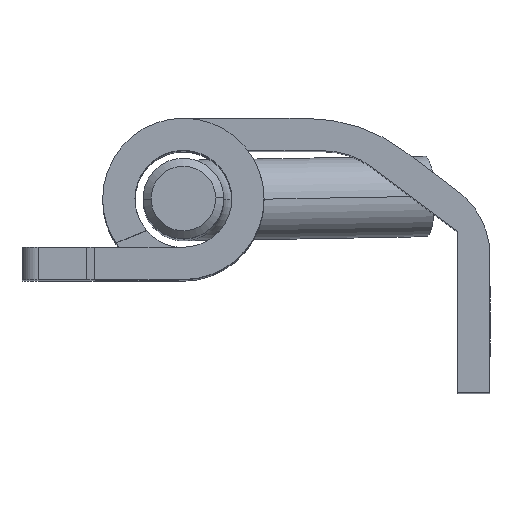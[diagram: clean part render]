
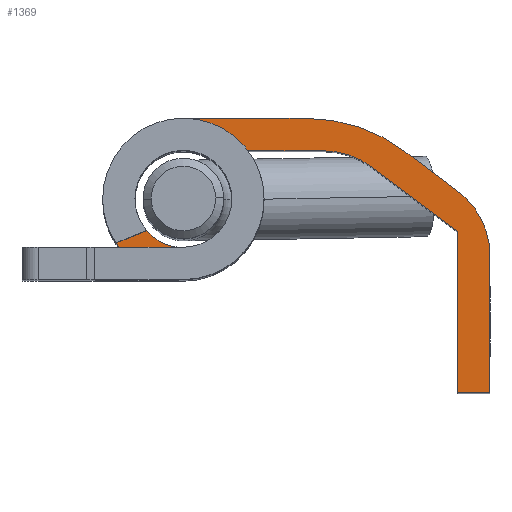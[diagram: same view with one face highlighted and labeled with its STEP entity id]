
A CAD part, top view. The second image highlights one B-rep face of the part: STEP entity #1369.
In plain terms, the highlighted planar face has unit normal (0, 0, 1) as drawn and (0, -1, 0) by its records, which use the part's own axes.
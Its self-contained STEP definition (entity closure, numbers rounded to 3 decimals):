
#9 = AXIS2_PLACEMENT_3D ( 'NONE', #5527, #2491, #3414 ) ;
#33 = CARTESIAN_POINT ( 'NONE',  ( -3.76, 0., -3.782 ) ) ;
#59 = LINE ( 'NONE', #2488, #2649 ) ;
#108 = VECTOR ( 'NONE', #3937, 1000. ) ;
#131 = CARTESIAN_POINT ( 'NONE',  ( -7.76, 0., -9.115 ) ) ;
#144 = ORIENTED_EDGE ( 'NONE', *, *, #5586, .F. ) ;
#244 = ORIENTED_EDGE ( 'NONE', *, *, #3194, .F. ) ;
#353 = AXIS2_PLACEMENT_3D ( 'NONE', #4005, #4478, #2029 ) ;
#403 = LINE ( 'NONE', #4023, #108 ) ;
#430 = CIRCLE ( 'NONE', #4335, 5. ) ;
#435 = ORIENTED_EDGE ( 'NONE', *, *, #6341, .F. ) ;
#487 = DIRECTION ( 'NONE',  ( 0., 1., 0. ) ) ;
#500 = CARTESIAN_POINT ( 'NONE',  ( -9.26, 0., -11.115 ) ) ;
#523 = VERTEX_POINT ( 'NONE', #5619 ) ;
#552 = CARTESIAN_POINT ( 'NONE',  ( -2.76, 0., -0.782 ) ) ;
#581 = CARTESIAN_POINT ( 'NONE',  ( -3.683, 0., 3.337 ) ) ;
#675 = EDGE_CURVE ( 'NONE', #5664, #3522, #4897, .T. ) ;
#716 = CARTESIAN_POINT ( 'NONE',  ( -2.76, 0., -2.448 ) ) ;
#870 = AXIS2_PLACEMENT_3D ( 'NONE', #5587, #6119, #4032 ) ;
#888 = CARTESIAN_POINT ( 'NONE',  ( -5.76, 0., 7.885 ) ) ;
#942 = CARTESIAN_POINT ( 'NONE',  ( -4.408, 0., 5.207 ) ) ;
#954 = CIRCLE ( 'NONE', #9, 3. ) ;
#970 = VECTOR ( 'NONE', #5009, 1000. ) ;
#975 = VERTEX_POINT ( 'NONE', #4190 ) ;
#1020 = CARTESIAN_POINT ( 'NONE',  ( -5.76, 0., 7.885 ) ) ;
#1140 = DIRECTION ( 'NONE',  ( 0., 0., 1. ) ) ;
#1174 = AXIS2_PLACEMENT_3D ( 'NONE', #2355, #3866, #5386 ) ;
#1323 = LINE ( 'NONE', #1957, #5406 ) ;
#1369 = ADVANCED_FACE ( 'NONE', ( #1916 ), #3930, .F. ) ;
#1413 = CARTESIAN_POINT ( 'NONE',  ( -0.76, 0., 0.218 ) ) ;
#1439 = ORIENTED_EDGE ( 'NONE', *, *, #6267, .F. ) ;
#1491 = VERTEX_POINT ( 'NONE', #6536 ) ;
#1527 = CARTESIAN_POINT ( 'NONE',  ( -17.76, 0., -11.115 ) ) ;
#1586 = EDGE_CURVE ( 'NONE', #5634, #5664, #3397, .T. ) ;
#1807 = AXIS2_PLACEMENT_3D ( 'NONE', #888, #2923, #6520 ) ;
#1887 = CARTESIAN_POINT ( 'NONE',  ( -5.76, 0., 12.885 ) ) ;
#1916 = FACE_OUTER_BOUND ( 'NONE', #2867, .T. ) ;
#1936 = DIRECTION ( 'NONE',  ( 0., 1., 0. ) ) ;
#1953 = DIRECTION ( 'NONE',  ( 0., 0., 1. ) ) ;
#1957 = CARTESIAN_POINT ( 'NONE',  ( -17.76, 0., -11.115 ) ) ;
#2022 = EDGE_CURVE ( 'NONE', #1491, #2154, #3405, .T. ) ;
#2029 = DIRECTION ( 'NONE',  ( 0., 0., 1. ) ) ;
#2113 = VECTOR ( 'NONE', #4470, 1000. ) ;
#2120 = VERTEX_POINT ( 'NONE', #1413 ) ;
#2126 = VECTOR ( 'NONE', #4907, 1000. ) ;
#2154 = VERTEX_POINT ( 'NONE', #942 ) ;
#2301 = CARTESIAN_POINT ( 'NONE',  ( -7.76, 0., -0.782 ) ) ;
#2344 = CARTESIAN_POINT ( 'NONE',  ( -17.76, 0., -9.115 ) ) ;
#2355 = CARTESIAN_POINT ( 'NONE',  ( -10.76, 0., 0.218 ) ) ;
#2402 = CARTESIAN_POINT ( 'NONE',  ( -5.76, 0., 7.885 ) ) ;
#2454 = CARTESIAN_POINT ( 'NONE',  ( -5.76, 0., 2.885 ) ) ;
#2482 = LINE ( 'NONE', #4492, #3513 ) ;
#2488 = CARTESIAN_POINT ( 'NONE',  ( -7.76, 0., -9.115 ) ) ;
#2491 = DIRECTION ( 'NONE',  ( 0., -1., 0. ) ) ;
#2536 = ORIENTED_EDGE ( 'NONE', *, *, #6151, .T. ) ;
#2552 = VERTEX_POINT ( 'NONE', #5687 ) ;
#2602 = VERTEX_POINT ( 'NONE', #552 ) ;
#2649 = VECTOR ( 'NONE', #4499, 1000. ) ;
#2683 = EDGE_CURVE ( 'NONE', #2154, #4989, #4465, .T. ) ;
#2746 = EDGE_CURVE ( 'NONE', #523, #2120, #5293, .T. ) ;
#2784 = AXIS2_PLACEMENT_3D ( 'NONE', #2301, #6175, #1140 ) ;
#2825 = CARTESIAN_POINT ( 'NONE',  ( -9.26, 0., -6.115 ) ) ;
#2828 = ORIENTED_EDGE ( 'NONE', *, *, #4706, .F. ) ;
#2857 = DIRECTION ( 'NONE',  ( 0., -1., 0. ) ) ;
#2867 = EDGE_LOOP ( 'NONE', ( #144, #2536, #244, #6367, #6472, #5439, #3459, #2828, #4903, #4853, #3979, #6059, #4205, #3871, #3890, #1439, #435 ) ) ;
#2885 = CIRCLE ( 'NONE', #5617, 5. ) ;
#2923 = DIRECTION ( 'NONE',  ( 0., 1., 0. ) ) ;
#3012 = EDGE_CURVE ( 'NONE', #2602, #2552, #4221, .T. ) ;
#3020 = CARTESIAN_POINT ( 'NONE',  ( -4.408, 0., 5.207 ) ) ;
#3194 = EDGE_CURVE ( 'NONE', #523, #6068, #3339, .T. ) ;
#3339 = LINE ( 'NONE', #5981, #2126 ) ;
#3387 = VERTEX_POINT ( 'NONE', #2344 ) ;
#3392 = EDGE_CURVE ( 'NONE', #3522, #2120, #2482, .T. ) ;
#3397 = CIRCLE ( 'NONE', #3705, 5. ) ;
#3405 = CIRCLE ( 'NONE', #6255, 3. ) ;
#3414 = DIRECTION ( 'NONE',  ( 0., 0., 1. ) ) ;
#3444 = DIRECTION ( 'NONE',  ( -1., 0., 0. ) ) ;
#3459 = ORIENTED_EDGE ( 'NONE', *, *, #1586, .F. ) ;
#3513 = VECTOR ( 'NONE', #5350, 1000. ) ;
#3522 = VERTEX_POINT ( 'NONE', #5744 ) ;
#3705 = AXIS2_PLACEMENT_3D ( 'NONE', #2402, #1936, #5535 ) ;
#3753 = EDGE_CURVE ( 'NONE', #2602, #6400, #5521, .T. ) ;
#3866 = DIRECTION ( 'NONE',  ( 0., -1., 0. ) ) ;
#3871 = ORIENTED_EDGE ( 'NONE', *, *, #3753, .T. ) ;
#3890 = ORIENTED_EDGE ( 'NONE', *, *, #5907, .F. ) ;
#3930 = PLANE ( 'NONE',  #1807 ) ;
#3937 = DIRECTION ( 'NONE',  ( 1., 0., 0. ) ) ;
#3979 = ORIENTED_EDGE ( 'NONE', *, *, #6438, .F. ) ;
#4005 = CARTESIAN_POINT ( 'NONE',  ( -5.76, 0., 7.885 ) ) ;
#4023 = CARTESIAN_POINT ( 'NONE',  ( -17.76, 0., -9.115 ) ) ;
#4032 = DIRECTION ( 'NONE',  ( 0., 0., 1. ) ) ;
#4064 = LINE ( 'NONE', #1527, #2113 ) ;
#4190 = CARTESIAN_POINT ( 'NONE',  ( -5.76, 0., 10.885 ) ) ;
#4205 = ORIENTED_EDGE ( 'NONE', *, *, #3012, .F. ) ;
#4221 = LINE ( 'NONE', #716, #6047 ) ;
#4331 = CARTESIAN_POINT ( 'NONE',  ( -5.26, 0., -9.115 ) ) ;
#4335 = AXIS2_PLACEMENT_3D ( 'NONE', #2825, #2857, #5858 ) ;
#4392 = VERTEX_POINT ( 'NONE', #500 ) ;
#4420 = EDGE_CURVE ( 'NONE', #2552, #975, #5205, .T. ) ;
#4465 = LINE ( 'NONE', #3020, #970 ) ;
#4470 = DIRECTION ( 'NONE',  ( 0., 0., 1. ) ) ;
#4478 = DIRECTION ( 'NONE',  ( 0., -1., 0. ) ) ;
#4492 = CARTESIAN_POINT ( 'NONE',  ( -0.76, 0., -3.115 ) ) ;
#4499 = DIRECTION ( 'NONE',  ( 0.6, 0., 0.8 ) ) ;
#4593 = DIRECTION ( 'NONE',  ( 0., 0., 1. ) ) ;
#4706 = EDGE_CURVE ( 'NONE', #4989, #5634, #2885, .T. ) ;
#4730 = DIRECTION ( 'NONE',  ( 0., 0., 1. ) ) ;
#4853 = ORIENTED_EDGE ( 'NONE', *, *, #2022, .F. ) ;
#4897 = CIRCLE ( 'NONE', #870, 5. ) ;
#4903 = ORIENTED_EDGE ( 'NONE', *, *, #2683, .F. ) ;
#4907 = DIRECTION ( 'NONE',  ( -0.6, 0., -0.8 ) ) ;
#4909 = DIRECTION ( 'NONE',  ( 0., -1., 0. ) ) ;
#4989 = VERTEX_POINT ( 'NONE', #581 ) ;
#5009 = DIRECTION ( 'NONE',  ( 0.362, 0., -0.932 ) ) ;
#5043 = CARTESIAN_POINT ( 'NONE',  ( -17.76, 0., -11.115 ) ) ;
#5205 = CIRCLE ( 'NONE', #353, 3. ) ;
#5293 = CIRCLE ( 'NONE', #1174, 10. ) ;
#5350 = DIRECTION ( 'NONE',  ( 0., 0., -1. ) ) ;
#5386 = DIRECTION ( 'NONE',  ( 0., 0., 1. ) ) ;
#5403 = VERTEX_POINT ( 'NONE', #131 ) ;
#5406 = VECTOR ( 'NONE', #3444, 1000. ) ;
#5439 = ORIENTED_EDGE ( 'NONE', *, *, #675, .F. ) ;
#5521 = CIRCLE ( 'NONE', #2784, 5. ) ;
#5527 = CARTESIAN_POINT ( 'NONE',  ( -5.76, 0., 7.885 ) ) ;
#5535 = DIRECTION ( 'NONE',  ( 0., 0., 1. ) ) ;
#5586 = EDGE_CURVE ( 'NONE', #4392, #6342, #1323, .T. ) ;
#5587 = CARTESIAN_POINT ( 'NONE',  ( -5.76, 0., 7.885 ) ) ;
#5617 = AXIS2_PLACEMENT_3D ( 'NONE', #1020, #487, #4593 ) ;
#5619 = CARTESIAN_POINT ( 'NONE',  ( -2.76, 0., -5.782 ) ) ;
#5634 = VERTEX_POINT ( 'NONE', #2454 ) ;
#5664 = VERTEX_POINT ( 'NONE', #1887 ) ;
#5687 = CARTESIAN_POINT ( 'NONE',  ( -2.76, 0., 7.885 ) ) ;
#5744 = CARTESIAN_POINT ( 'NONE',  ( -0.76, 0., 7.885 ) ) ;
#5858 = DIRECTION ( 'NONE',  ( 0., 0., 1. ) ) ;
#5907 = EDGE_CURVE ( 'NONE', #5403, #6400, #59, .T. ) ;
#5981 = CARTESIAN_POINT ( 'NONE',  ( -6.76, 0., -11.115 ) ) ;
#6047 = VECTOR ( 'NONE', #4730, 1000. ) ;
#6059 = ORIENTED_EDGE ( 'NONE', *, *, #4420, .F. ) ;
#6068 = VERTEX_POINT ( 'NONE', #4331 ) ;
#6119 = DIRECTION ( 'NONE',  ( 0., 1., 0. ) ) ;
#6151 = EDGE_CURVE ( 'NONE', #4392, #6068, #430, .T. ) ;
#6175 = DIRECTION ( 'NONE',  ( 0., 1., 0. ) ) ;
#6255 = AXIS2_PLACEMENT_3D ( 'NONE', #6487, #4909, #1953 ) ;
#6267 = EDGE_CURVE ( 'NONE', #3387, #5403, #403, .T. ) ;
#6341 = EDGE_CURVE ( 'NONE', #6342, #3387, #4064, .T. ) ;
#6342 = VERTEX_POINT ( 'NONE', #5043 ) ;
#6367 = ORIENTED_EDGE ( 'NONE', *, *, #2746, .T. ) ;
#6400 = VERTEX_POINT ( 'NONE', #33 ) ;
#6438 = EDGE_CURVE ( 'NONE', #975, #1491, #954, .T. ) ;
#6472 = ORIENTED_EDGE ( 'NONE', *, *, #3392, .F. ) ;
#6487 = CARTESIAN_POINT ( 'NONE',  ( -5.76, 0., 7.885 ) ) ;
#6520 = DIRECTION ( 'NONE',  ( 0., 0., 1. ) ) ;
#6536 = CARTESIAN_POINT ( 'NONE',  ( -5.76, 0., 4.885 ) ) ;
